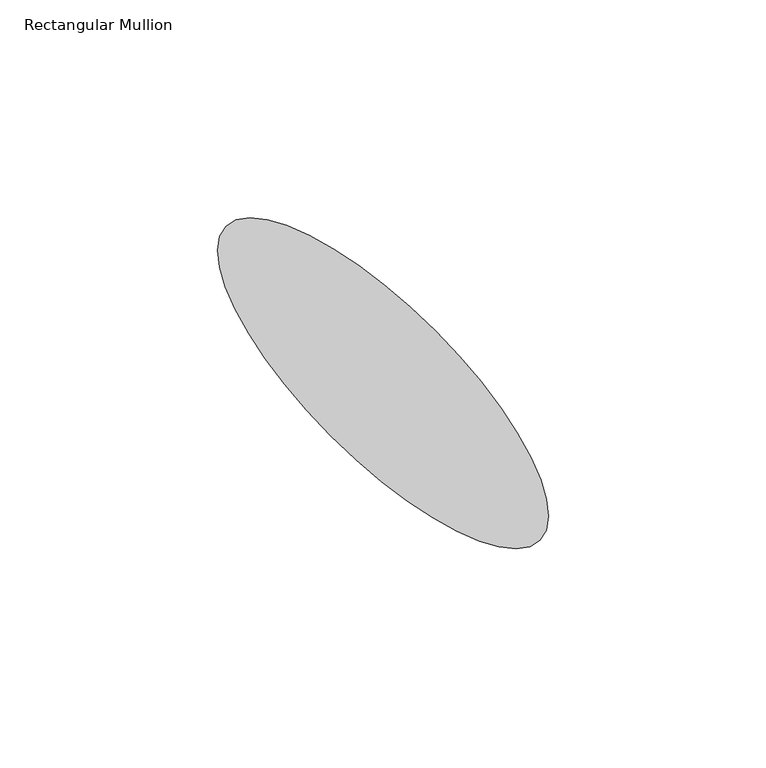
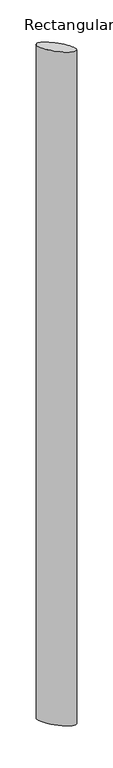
"""IFC4 building model written with IfcOpenShell, lengths in millimetres: member geometry, Rectangular Mullion : RSen_21_CWM_blade - 100 D_gen_duco projects."""

from ifc_helpers import new_model, si_unit, point, frame, origin, place, context, project, spatial, ellipse_curve, trimmed, source, transform, mapped, element, save
from ifc_brep_helpers import plane_surface, extruded_surface, advanced_brep


def rectangular_mullion_d23d7044(model_context):
    return source(origin(), model_context, "Body", "AdvancedBrep", [
        advanced_brep(
        [(36.0624458, 4.9375542, 0.0), (-36.0624458, 77.0624458, 0.0), (36.0624458, 4.9375542, -2000.0), (-36.0624458, 77.0624458, -2000.0)],
        [
            (0, 1, ellipse_curve(frame((0.0, 41.0, 0.0), z_axis=(0.0, 0.0, 1.0000000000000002), x_axis=(-0.7071067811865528, 0.7071067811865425, 0.0)), 51.0, 17.0)),
            (1, 0, ellipse_curve(frame((0.0, 41.0, 0.0), z_axis=(0.0, 0.0, 1.0000000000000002), x_axis=(-0.7071067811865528, 0.7071067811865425, 0.0)), 51.0, 17.0)),
            (2, 3, ellipse_curve(frame((0.0, 41.0, -2000.0), z_axis=(0.0, 0.0, -1.0000000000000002), x_axis=(-0.7071067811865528, 0.7071067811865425, 0.0)), 51.0, 17.0)),
            (3, 2, ellipse_curve(frame((0.0, 41.0, -2000.0), z_axis=(0.0, 0.0, -1.0000000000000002), x_axis=(-0.7071067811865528, 0.7071067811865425, 0.0)), 51.0, 17.0)),
            (0, 2),
            (3, 1),
        ],
        [
            plane_surface(frame((0.0, -85.0830216, 0.0), z_axis=(0.0, 0.0, 1.0), x_axis=(-1.0, 0.0, 0.0))),
            plane_surface(frame((0.0, -85.0830216, -2000.0), z_axis=(0.0, 0.0, -1.0), x_axis=(-1.0, 0.0, 0.0))),
            extruded_surface(trimmed(ellipse_curve(frame((0.0, 41.0, -2000.0), z_axis=(0.0, 0.0, 1.0000000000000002), x_axis=(-0.7071067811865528, 0.7071067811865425, 0.0)), 51.0, 17.0), [point((36.0624458, 4.9375542, -2000.0))], [point((-36.0624458, 77.0624458, -2000.0))], True, "CARTESIAN"), (0.0, 0.0, 2000.0), 2000.0),
            extruded_surface(trimmed(ellipse_curve(frame((0.0, 41.0, -2000.0), z_axis=(0.0, 0.0, 1.0000000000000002), x_axis=(-0.7071067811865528, 0.7071067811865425, 0.0)), 51.0, 17.0), [point((-36.0624458, 77.0624458, -2000.0))], [point((36.0624458, 4.9375542, -2000.0))], True, "CARTESIAN"), (0.0, 0.0, 2000.0), 2000.0),
        ],
        [
            (0, [[1, 2]]),
            (1, [[3, 4]]),
            (2, [[-1, 5, -4, 6]]),
            (3, [[-2, -6, -3, -5]]),
        ],
    ),
    ])


if __name__ == "__main__":
    model = new_model("IFC4")
    model_context = context("Model", 3, world=origin())
    ifc_project = project(units=[si_unit("LENGTHUNIT", "METRE", prefix="MILLI")], contexts=[model_context])
    site = spatial("IfcSite", under=ifc_project)
    building = spatial("IfcBuilding", under=site)
    placement = place(None, origin())
    rectangular_mullion_shape = rectangular_mullion_d23d7044(model_context)
    element("IfcMember", 1, ObjectType="Rectangular Mullion : RSen_21_CWM_blade - 100 D_gen_duco projects", at=placement, inside=building, context=model_context, shape_type="MappedRepresentation", body=[
        mapped(rectangular_mullion_shape, transform((0.0, 0.0, 0.0), x_axis=(1.0, 0.0, 0.0), y_axis=(0.0, 1.0, 0.0), z_axis=(0.0, 0.0, 1.0))),
    ])
    save(model, "model.ifc")
